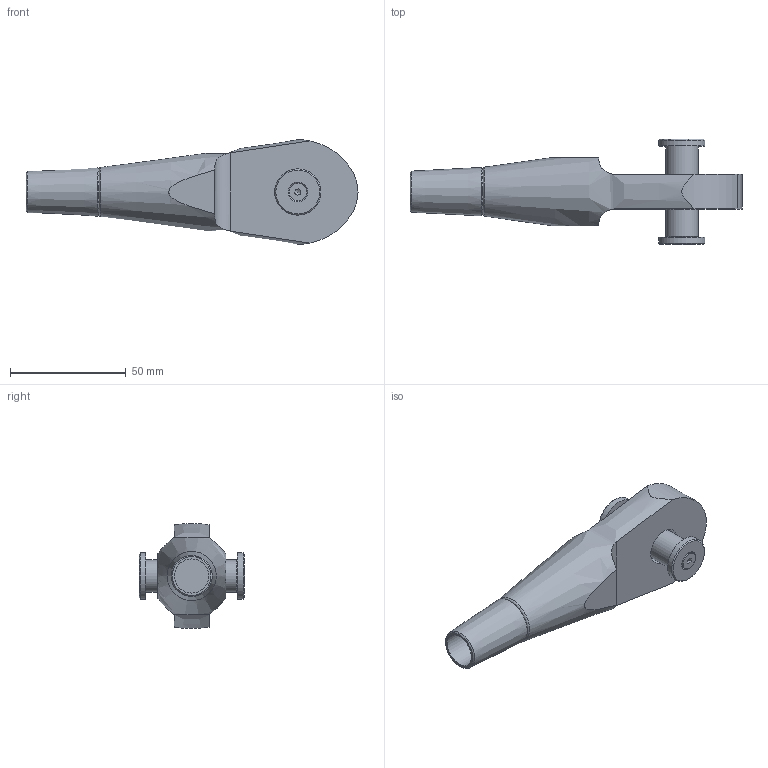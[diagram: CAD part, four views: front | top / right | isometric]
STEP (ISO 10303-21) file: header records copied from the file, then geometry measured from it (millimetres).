
FILE_DESCRIPTION(/* description */ (''),/* implementation_level */ '2;1');
FILE_NAME(/* name */ 'G:\Engineering\700 CAD\Internet-PX-1-step-igs-dxf\520-OES-Arbeitsdateien\520-014-OES.stp',/* time_stamp */ '2020-06-26T10:09:25+02:00',/* author */ ('schwarz'),/* organization */ (''),/* preprocessor_version */ 'ST-DEVELOPER v16.1',/* originating_system */ 'Autodesk Inventor 2016',/* authorisation */ '');
FILE_SCHEMA (('AUTOMOTIVE_DESIGN { 1 0 10303 214 3 1 1 }'));
Length unit declared in the file: centimetre
Products named in the file (1): 520-014-OES-KMU-Kunde
Bounding box: 143.5 x 45.78 x 45.17 mm (x, y, z)
Volume: 76229.8 mm3; surface area: 18366.8 mm2
Topology: 2 solids, 3 shells, 49 faces, 108 edges, 70 vertices
Faces by surface type: plane 22, cylinder 14, cone 12, torus 1
Full cylindrical faces by diameter (mm): 3.242 x1, 4 x1, 4.5 x1, 7.53 x1, 14 x1, 14.8 x1, 16 x1, 20 x2
Entity records: 1342 total; most frequent: CARTESIAN_POINT 304, DIRECTION 198, ORIENTED_EDGE 158, AXIS2_PLACEMENT_3D 89, EDGE_CURVE 79, EDGE_LOOP 78, VERTEX_POINT 63, STYLED_ITEM 51
